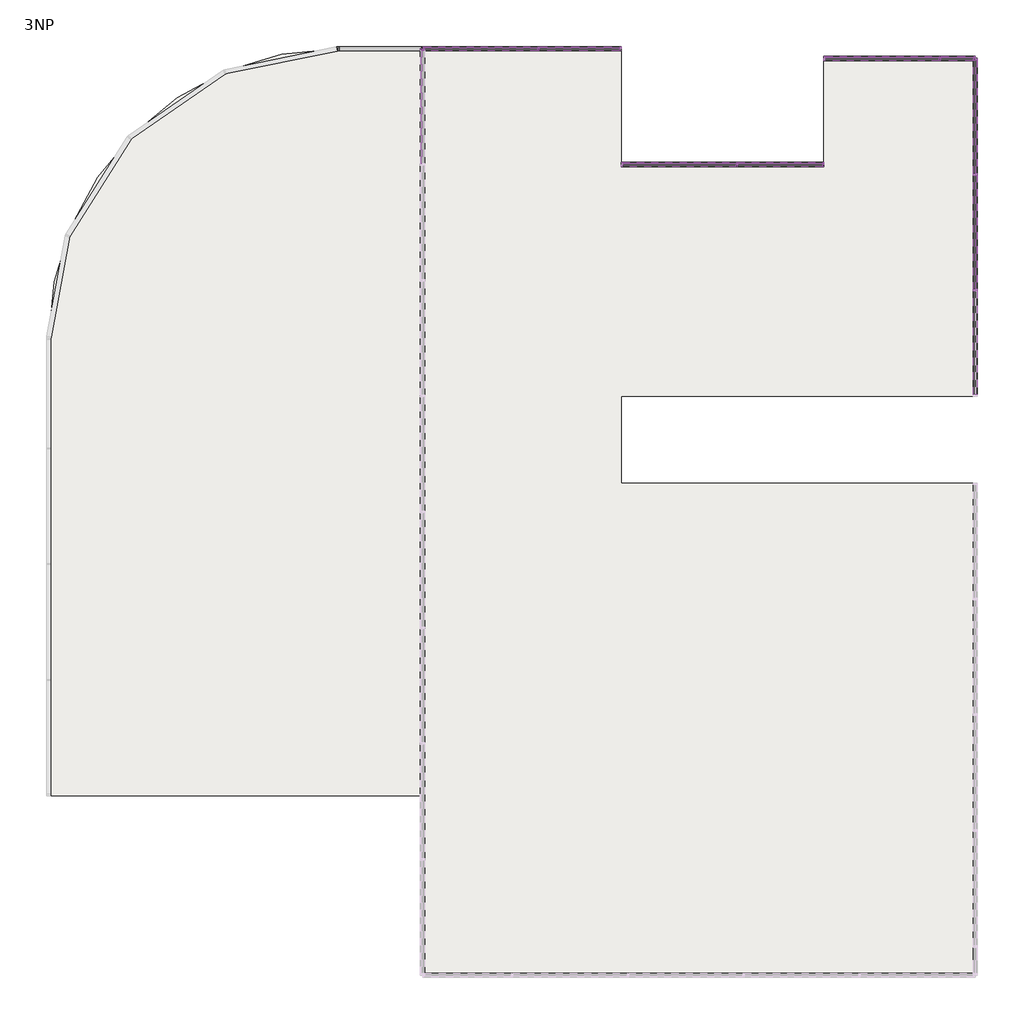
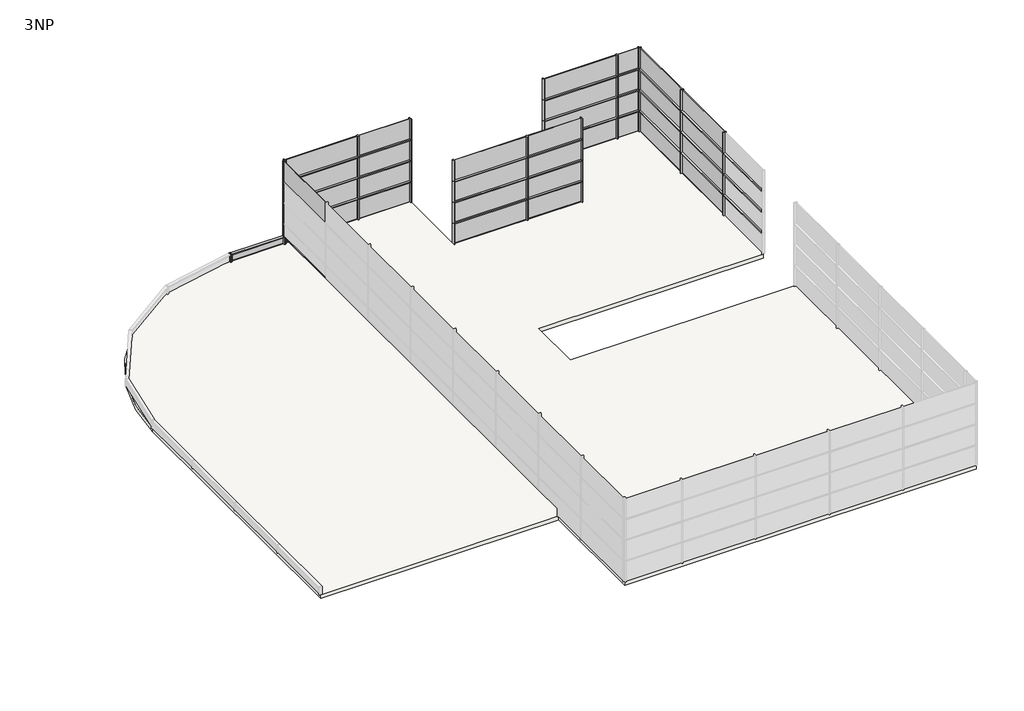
# One storey, part 3 of 3: 85 members, 34 plates, 1 slab.
"""IFC4 building model written with IfcOpenShell, lengths in millimetres."""

from ifc_helpers import new_model, si_unit, point, frame, frame_2d, origin, place, context, project, spatial, polyline, circle_curve, trimmed, segment, composite_curve, outline, extrude, transform, mapped, element, save
from components import rectangular_mullion_50_x_150mm_d99dc9be, rectangular_mullion_50_x_150mm_402ab136, rectangular_mullion_50_x_150mm_6588f46c, rectangular_mullion_50_x_150mm_3fe1b35e, rectangular_mullion_50_x_150mm_a037c29c, rectangular_mullion_50_x_150mm_c2546fd4, rectangular_mullion_50_x_150mm_70b588a3, rectangular_mullion_50_x_150mm_8b4cb4b7, rectangular_mullion_50_x_150mm_6c212b22, rectangular_mullion_50_x_150mm_185cfd49, rectangular_mullion_50_x_150mm_2fe63767, rectangular_mullion_50_x_150mm_0b116d56, system_panel_glazed_8e9402eb, system_panel_glazed_89ac83a7, system_panel_glazed_e890f31e, system_panel_glazed_bdf03046, system_panel_glazed_e3e91f99, system_panel_glazed_39d17f19, system_panel_glazed_f2c6a52c

model = new_model("IFC4")

# Units and contexts
model_context = context("Model", 3, world=origin())
ifc_project = project(units=[si_unit("LENGTHUNIT", "METRE", prefix="MILLI")], contexts=[model_context])

# Site, building, storey
site = spatial("IfcSite", under=ifc_project)
building = spatial("IfcBuilding", under=site)
storey = spatial("IfcBuildingStorey", under=building, Name="3NP", Elevation=12000.0)

# Members
placement = place(None, origin())
rectangular_mullion_50_x_150mm_shape = rectangular_mullion_50_x_150mm_d99dc9be(model_context)
element("IfcMember", 1, ObjectType="Rectangular Mullion : 50 x 150mm", at=placement, inside=storey, context=model_context, shape_type="MappedRepresentation", body=[
    mapped(rectangular_mullion_50_x_150mm_shape, transform((13503.2660975, 39.3555415, 16800.0), x_axis=(0.0, -1.0, 0.0), y_axis=(1.0, 0.0, 0.0), z_axis=(0.0, 0.0, 1.0))),
])
element("IfcMember", 2, ObjectType="Rectangular Mullion : 50 x 150mm", at=placement, inside=storey, context=model_context, shape_type="MappedRepresentation", body=[
    mapped(rectangular_mullion_50_x_150mm_shape, transform((13503.2660975, 39.3555415, 15600.0), x_axis=(0.0, -1.0, 0.0), y_axis=(1.0, 0.0, 0.0), z_axis=(0.0, 0.0, 1.0))),
])
element("IfcMember", 3, ObjectType="Rectangular Mullion : 50 x 150mm", at=placement, inside=storey, context=model_context, shape_type="MappedRepresentation", body=[
    mapped(rectangular_mullion_50_x_150mm_shape, transform((13503.2660975, 39.3555415, 14400.0), x_axis=(0.0, -1.0, 0.0), y_axis=(1.0, 0.0, 0.0), z_axis=(0.0, 0.0, 1.0))),
])
element("IfcMember", 4, ObjectType="Rectangular Mullion : 50 x 150mm", at=placement, inside=storey, context=model_context, shape_type="MappedRepresentation", body=[
    mapped(rectangular_mullion_50_x_150mm_shape, transform((13503.2660975, 39.3555415, 13200.0), x_axis=(0.0, -1.0, 0.0), y_axis=(1.0, 0.0, 0.0), z_axis=(0.0, 0.0, 1.0))),
])
element("IfcMember", 5, ObjectType="Rectangular Mullion : 50 x 150mm", at=placement, inside=storey, context=model_context, shape_type="MappedRepresentation", body=[
    mapped(rectangular_mullion_50_x_150mm_shape, transform((13503.2660975, 4039.3555415, 16800.0), x_axis=(0.0, -1.0, 0.0), y_axis=(1.0, 0.0, 0.0), z_axis=(0.0, 0.0, 1.0))),
])
element("IfcMember", 6, ObjectType="Rectangular Mullion : 50 x 150mm", at=placement, inside=storey, context=model_context, shape_type="MappedRepresentation", body=[
    mapped(rectangular_mullion_50_x_150mm_shape, transform((13503.2660975, 4039.3555415, 15600.0), x_axis=(0.0, -1.0, 0.0), y_axis=(1.0, 0.0, 0.0), z_axis=(0.0, 0.0, 1.0))),
])
element("IfcMember", 7, ObjectType="Rectangular Mullion : 50 x 150mm", at=placement, inside=storey, context=model_context, shape_type="MappedRepresentation", body=[
    mapped(rectangular_mullion_50_x_150mm_shape, transform((13503.2660975, 4039.3555415, 14400.0), x_axis=(0.0, -1.0, 0.0), y_axis=(1.0, 0.0, 0.0), z_axis=(0.0, 0.0, 1.0))),
])
element("IfcMember", 8, ObjectType="Rectangular Mullion : 50 x 150mm", at=placement, inside=storey, context=model_context, shape_type="MappedRepresentation", body=[
    mapped(rectangular_mullion_50_x_150mm_shape, transform((13503.2660975, 4039.3555415, 13200.0), x_axis=(0.0, -1.0, 0.0), y_axis=(1.0, 0.0, 0.0), z_axis=(0.0, 0.0, 1.0))),
])
element("IfcMember", 9, ObjectType="Rectangular Mullion : 50 x 150mm", at=placement, inside=storey, context=model_context, shape_type="MappedRepresentation", body=[
    mapped(rectangular_mullion_50_x_150mm_shape, transform((-1587.173406, 8375.9839566, 13200.0), x_axis=(1.0, 0.0, 0.0), y_axis=(0.0, 1.0, 0.0), z_axis=(0.0, 0.0, 1.0))),
])
element("IfcMember", 10, ObjectType="Rectangular Mullion : 50 x 150mm", at=placement, inside=storey, context=model_context, shape_type="MappedRepresentation", body=[
    mapped(rectangular_mullion_50_x_150mm_shape, transform((-1587.173406, 8375.9839566, 14400.0), x_axis=(1.0, 0.0, 0.0), y_axis=(0.0, 1.0, 0.0), z_axis=(0.0, 0.0, 1.0))),
])
element("IfcMember", 11, ObjectType="Rectangular Mullion : 50 x 150mm", at=placement, inside=storey, context=model_context, shape_type="MappedRepresentation", body=[
    mapped(rectangular_mullion_50_x_150mm_shape, transform((-1587.173406, 8375.9839566, 15600.0), x_axis=(1.0, 0.0, 0.0), y_axis=(0.0, 1.0, 0.0), z_axis=(0.0, 0.0, 1.0))),
])
element("IfcMember", 12, ObjectType="Rectangular Mullion : 50 x 150mm", at=placement, inside=storey, context=model_context, shape_type="MappedRepresentation", body=[
    mapped(rectangular_mullion_50_x_150mm_shape, transform((-1587.173406, 8375.9839566, 16800.0), x_axis=(1.0, 0.0, 0.0), y_axis=(0.0, 1.0, 0.0), z_axis=(0.0, 0.0, 1.0))),
])
element("IfcMember", 13, ObjectType="Rectangular Mullion : 50 x 150mm", at=placement, inside=storey, context=model_context, shape_type="MappedRepresentation", body=[
    mapped(rectangular_mullion_50_x_150mm_shape, transform((5278.419219, 4375.9839566, 16800.0), x_axis=(1.0, 0.0, 0.0), y_axis=(0.0, 1.0, 0.0), z_axis=(0.0, 0.0, 1.0))),
])
element("IfcMember", 14, ObjectType="Rectangular Mullion : 50 x 150mm", at=placement, inside=storey, context=model_context, shape_type="MappedRepresentation", body=[
    mapped(rectangular_mullion_50_x_150mm_shape, transform((5278.419219, 4375.9839566, 13200.0), x_axis=(1.0, 0.0, 0.0), y_axis=(0.0, 1.0, 0.0), z_axis=(0.0, 0.0, 1.0))),
])
element("IfcMember", 15, ObjectType="Rectangular Mullion : 50 x 150mm", at=placement, inside=storey, context=model_context, shape_type="MappedRepresentation", body=[
    mapped(rectangular_mullion_50_x_150mm_shape, transform((5278.419219, 4375.9839566, 14400.0), x_axis=(1.0, 0.0, 0.0), y_axis=(0.0, 1.0, 0.0), z_axis=(0.0, 0.0, 1.0))),
])
element("IfcMember", 16, ObjectType="Rectangular Mullion : 50 x 150mm", at=placement, inside=storey, context=model_context, shape_type="MappedRepresentation", body=[
    mapped(rectangular_mullion_50_x_150mm_shape, transform((5278.419219, 4375.9839566, 15600.0), x_axis=(1.0, 0.0, 0.0), y_axis=(0.0, 1.0, 0.0), z_axis=(0.0, 0.0, 1.0))),
])
element("IfcMember", 17, ObjectType="Rectangular Mullion : 50 x 150mm", at=placement, inside=storey, context=model_context, shape_type="MappedRepresentation", body=[
    mapped(rectangular_mullion_50_x_150mm_shape, transform((12278.419219, 8039.3555415, 13200.0), x_axis=(1.0, 0.0, 0.0), y_axis=(0.0, 1.0, 0.0), z_axis=(0.0, 0.0, 1.0))),
])
element("IfcMember", 18, ObjectType="Rectangular Mullion : 50 x 150mm", at=placement, inside=storey, context=model_context, shape_type="MappedRepresentation", body=[
    mapped(rectangular_mullion_50_x_150mm_shape, transform((12278.419219, 8039.3555415, 14400.0), x_axis=(1.0, 0.0, 0.0), y_axis=(0.0, 1.0, 0.0), z_axis=(0.0, 0.0, 1.0))),
])
element("IfcMember", 19, ObjectType="Rectangular Mullion : 50 x 150mm", at=placement, inside=storey, context=model_context, shape_type="MappedRepresentation", body=[
    mapped(rectangular_mullion_50_x_150mm_shape, transform((12278.419219, 8039.3555415, 15600.0), x_axis=(1.0, 0.0, 0.0), y_axis=(0.0, 1.0, 0.0), z_axis=(0.0, 0.0, 1.0))),
])
element("IfcMember", 20, ObjectType="Rectangular Mullion : 50 x 150mm", at=placement, inside=storey, context=model_context, shape_type="MappedRepresentation", body=[
    mapped(rectangular_mullion_50_x_150mm_shape, transform((12278.419219, 8039.3555415, 16800.0), x_axis=(1.0, 0.0, 0.0), y_axis=(0.0, 1.0, 0.0), z_axis=(0.0, 0.0, 1.0))),
])
rectangular_mullion_50_x_150mm_2_shape = rectangular_mullion_50_x_150mm_402ab136(model_context)
element("IfcMember", 21, ObjectType="Rectangular Mullion : 50 x 150mm", at=placement, inside=storey, context=model_context, shape_type="MappedRepresentation", body=[
    mapped(rectangular_mullion_50_x_150mm_2_shape, transform((-5587.173406, 8325.9839566, 12448.4924443), x_axis=(0.0, 0.0, -1.0), y_axis=(-1.0, 0.0, 0.0), z_axis=(0.0, 1.0, 0.0))),
])
rectangular_mullion_50_x_150mm_3_shape = rectangular_mullion_50_x_150mm_6588f46c(model_context)
element("IfcMember", 22, ObjectType="Rectangular Mullion : 50 x 150mm", at=placement, inside=storey, context=model_context, shape_type="MappedRepresentation", body=[
    mapped(rectangular_mullion_50_x_150mm_3_shape, transform((-5587.173406, 8375.9839566, 14400.0), x_axis=(0.0, 1.0, 0.0), y_axis=(-1.0, 0.0, 0.0), z_axis=(0.0, 0.0, 1.0))),
])
element("IfcMember", 23, ObjectType="Rectangular Mullion : 50 x 150mm", at=placement, inside=storey, context=model_context, shape_type="MappedRepresentation", body=[
    mapped(rectangular_mullion_50_x_150mm_3_shape, transform((-5587.173406, 8375.9839566, 15600.0), x_axis=(0.0, 1.0, 0.0), y_axis=(-1.0, 0.0, 0.0), z_axis=(0.0, 0.0, 1.0))),
])
element("IfcMember", 24, ObjectType="Rectangular Mullion : 50 x 150mm", at=placement, inside=storey, context=model_context, shape_type="MappedRepresentation", body=[
    mapped(rectangular_mullion_50_x_150mm_3_shape, transform((-5587.173406, 8375.9839566, 16800.0), x_axis=(0.0, 1.0, 0.0), y_axis=(-1.0, 0.0, 0.0), z_axis=(0.0, 0.0, 1.0))),
])
element("IfcMember", 25, ObjectType="Rectangular Mullion : 50 x 150mm", at=placement, inside=storey, context=model_context, shape_type="MappedRepresentation", body=[
    mapped(rectangular_mullion_50_x_150mm_3_shape, transform((1278.419219, 8375.9839566, 13200.0), x_axis=(1.0, 0.0, 0.0), y_axis=(0.0, 1.0, 0.0), z_axis=(0.0, 0.0, 1.0))),
])
element("IfcMember", 26, ObjectType="Rectangular Mullion : 50 x 150mm", at=placement, inside=storey, context=model_context, shape_type="MappedRepresentation", body=[
    mapped(rectangular_mullion_50_x_150mm_3_shape, transform((1278.419219, 8375.9839566, 14400.0), x_axis=(1.0, 0.0, 0.0), y_axis=(0.0, 1.0, 0.0), z_axis=(0.0, 0.0, 1.0))),
])
element("IfcMember", 27, ObjectType="Rectangular Mullion : 50 x 150mm", at=placement, inside=storey, context=model_context, shape_type="MappedRepresentation", body=[
    mapped(rectangular_mullion_50_x_150mm_3_shape, transform((1278.419219, 8375.9839566, 15600.0), x_axis=(1.0, 0.0, 0.0), y_axis=(0.0, 1.0, 0.0), z_axis=(0.0, 0.0, 1.0))),
])
element("IfcMember", 28, ObjectType="Rectangular Mullion : 50 x 150mm", at=placement, inside=storey, context=model_context, shape_type="MappedRepresentation", body=[
    mapped(rectangular_mullion_50_x_150mm_3_shape, transform((1278.419219, 8375.9839566, 16800.0), x_axis=(1.0, 0.0, 0.0), y_axis=(0.0, 1.0, 0.0), z_axis=(0.0, 0.0, 1.0))),
])
element("IfcMember", 29, ObjectType="Rectangular Mullion : 50 x 150mm", at=placement, inside=storey, context=model_context, shape_type="MappedRepresentation", body=[
    mapped(rectangular_mullion_50_x_150mm_3_shape, transform((8278.419219, 4375.9839566, 13200.0), x_axis=(1.0, 0.0, 0.0), y_axis=(0.0, 1.0, 0.0), z_axis=(0.0, 0.0, 1.0))),
])
element("IfcMember", 30, ObjectType="Rectangular Mullion : 50 x 150mm", at=placement, inside=storey, context=model_context, shape_type="MappedRepresentation", body=[
    mapped(rectangular_mullion_50_x_150mm_3_shape, transform((8278.419219, 4375.9839566, 14400.0), x_axis=(1.0, 0.0, 0.0), y_axis=(0.0, 1.0, 0.0), z_axis=(0.0, 0.0, 1.0))),
])
element("IfcMember", 31, ObjectType="Rectangular Mullion : 50 x 150mm", at=placement, inside=storey, context=model_context, shape_type="MappedRepresentation", body=[
    mapped(rectangular_mullion_50_x_150mm_3_shape, transform((8278.419219, 4375.9839566, 15600.0), x_axis=(1.0, 0.0, 0.0), y_axis=(0.0, 1.0, 0.0), z_axis=(0.0, 0.0, 1.0))),
])
element("IfcMember", 32, ObjectType="Rectangular Mullion : 50 x 150mm", at=placement, inside=storey, context=model_context, shape_type="MappedRepresentation", body=[
    mapped(rectangular_mullion_50_x_150mm_3_shape, transform((8278.419219, 4375.9839566, 16800.0), x_axis=(1.0, 0.0, 0.0), y_axis=(0.0, 1.0, 0.0), z_axis=(0.0, 0.0, 1.0))),
])
element("IfcMember", 33, ObjectType="Rectangular Mullion : 50 x 150mm", at=placement, inside=storey, context=model_context, shape_type="MappedRepresentation", body=[
    mapped(rectangular_mullion_50_x_150mm_3_shape, transform((13503.2660975, 8039.3555415, 13200.0), x_axis=(1.0, 0.0, 0.0), y_axis=(0.0, 1.0, 0.0), z_axis=(0.0, 0.0, 1.0))),
])
element("IfcMember", 34, ObjectType="Rectangular Mullion : 50 x 150mm", at=placement, inside=storey, context=model_context, shape_type="MappedRepresentation", body=[
    mapped(rectangular_mullion_50_x_150mm_3_shape, transform((13503.2660975, 8039.3555415, 14400.0), x_axis=(1.0, 0.0, 0.0), y_axis=(0.0, 1.0, 0.0), z_axis=(0.0, 0.0, 1.0))),
])
element("IfcMember", 35, ObjectType="Rectangular Mullion : 50 x 150mm", at=placement, inside=storey, context=model_context, shape_type="MappedRepresentation", body=[
    mapped(rectangular_mullion_50_x_150mm_3_shape, transform((13503.2660975, 8039.3555415, 15600.0), x_axis=(1.0, 0.0, 0.0), y_axis=(0.0, 1.0, 0.0), z_axis=(0.0, 0.0, 1.0))),
])
element("IfcMember", 36, ObjectType="Rectangular Mullion : 50 x 150mm", at=placement, inside=storey, context=model_context, shape_type="MappedRepresentation", body=[
    mapped(rectangular_mullion_50_x_150mm_3_shape, transform((13503.2660975, 8039.3555415, 16800.0), x_axis=(1.0, 0.0, 0.0), y_axis=(0.0, 1.0, 0.0), z_axis=(0.0, 0.0, 1.0))),
])
rectangular_mullion_50_x_150mm_4_shape = rectangular_mullion_50_x_150mm_3fe1b35e(model_context)
element("IfcMember", 37, ObjectType="Rectangular Mullion : 50 x 150mm", at=placement, inside=storey, context=model_context, shape_type="MappedRepresentation", body=[
    mapped(rectangular_mullion_50_x_150mm_4_shape, transform((13503.2660975, 14.3555415, 15600.0), x_axis=(0.0, 0.0, 1.0), y_axis=(1.0, 0.0, 0.0), z_axis=(0.0, 1.0, 0.0))),
])
element("IfcMember", 38, ObjectType="Rectangular Mullion : 50 x 150mm", at=placement, inside=storey, context=model_context, shape_type="MappedRepresentation", body=[
    mapped(rectangular_mullion_50_x_150mm_4_shape, transform((13503.2660975, 14.3555415, 14400.0), x_axis=(0.0, 0.0, 1.0), y_axis=(1.0, 0.0, 0.0), z_axis=(0.0, 1.0, 0.0))),
])
element("IfcMember", 39, ObjectType="Rectangular Mullion : 50 x 150mm", at=placement, inside=storey, context=model_context, shape_type="MappedRepresentation", body=[
    mapped(rectangular_mullion_50_x_150mm_4_shape, transform((13503.2660975, 14.3555415, 13200.0), x_axis=(0.0, 0.0, 1.0), y_axis=(1.0, 0.0, 0.0), z_axis=(0.0, 1.0, 0.0))),
])
rectangular_mullion_50_x_150mm_5_shape = rectangular_mullion_50_x_150mm_a037c29c(model_context)
element("IfcMember", 40, ObjectType="Rectangular Mullion : 50 x 150mm", at=placement, inside=storey, context=model_context, shape_type="MappedRepresentation", body=[
    mapped(rectangular_mullion_50_x_150mm_5_shape, transform((13503.2660975, 4014.3555415, 15600.0), x_axis=(0.0, 0.0, 1.0), y_axis=(1.0, 0.0, 0.0), z_axis=(0.0, 1.0, 0.0))),
])
element("IfcMember", 41, ObjectType="Rectangular Mullion : 50 x 150mm", at=placement, inside=storey, context=model_context, shape_type="MappedRepresentation", body=[
    mapped(rectangular_mullion_50_x_150mm_5_shape, transform((13503.2660975, 4014.3555415, 14400.0), x_axis=(0.0, 0.0, 1.0), y_axis=(1.0, 0.0, 0.0), z_axis=(0.0, 1.0, 0.0))),
])
element("IfcMember", 42, ObjectType="Rectangular Mullion : 50 x 150mm", at=placement, inside=storey, context=model_context, shape_type="MappedRepresentation", body=[
    mapped(rectangular_mullion_50_x_150mm_5_shape, transform((13503.2660975, 4014.3555415, 13200.0), x_axis=(0.0, 0.0, 1.0), y_axis=(1.0, 0.0, 0.0), z_axis=(0.0, 1.0, 0.0))),
])
rectangular_mullion_50_x_150mm_6_shape = rectangular_mullion_50_x_150mm_c2546fd4(model_context)
element("IfcMember", 43, ObjectType="Rectangular Mullion : 50 x 150mm", at=placement, inside=storey, context=model_context, shape_type="MappedRepresentation", body=[
    mapped(rectangular_mullion_50_x_150mm_6_shape, transform((13503.2660975, 7989.3555415, 15600.0), x_axis=(0.0, 0.0, 1.0), y_axis=(1.0, 0.0, 0.0), z_axis=(0.0, 1.0, 0.0))),
])
element("IfcMember", 44, ObjectType="Rectangular Mullion : 50 x 150mm", at=placement, inside=storey, context=model_context, shape_type="MappedRepresentation", body=[
    mapped(rectangular_mullion_50_x_150mm_6_shape, transform((13503.2660975, 7989.3555415, 14400.0), x_axis=(0.0, 0.0, 1.0), y_axis=(1.0, 0.0, 0.0), z_axis=(0.0, 1.0, 0.0))),
])
element("IfcMember", 45, ObjectType="Rectangular Mullion : 50 x 150mm", at=placement, inside=storey, context=model_context, shape_type="MappedRepresentation", body=[
    mapped(rectangular_mullion_50_x_150mm_6_shape, transform((13503.2660975, 7989.3555415, 13200.0), x_axis=(0.0, 0.0, 1.0), y_axis=(1.0, 0.0, 0.0), z_axis=(0.0, 1.0, 0.0))),
])
element("IfcMember", 46, ObjectType="Rectangular Mullion : 50 x 150mm", at=placement, inside=storey, context=model_context, shape_type="MappedRepresentation", body=[
    mapped(rectangular_mullion_50_x_150mm_6_shape, transform((-5537.173406, 8375.9839566, 13200.0), x_axis=(0.0, 0.0, 1.0), y_axis=(0.0, 1.0, 0.0), z_axis=(-1.0, 0.0, 0.0))),
])
element("IfcMember", 47, ObjectType="Rectangular Mullion : 50 x 150mm", at=placement, inside=storey, context=model_context, shape_type="MappedRepresentation", body=[
    mapped(rectangular_mullion_50_x_150mm_6_shape, transform((-5537.173406, 8375.9839566, 14400.0), x_axis=(0.0, 0.0, 1.0), y_axis=(0.0, 1.0, 0.0), z_axis=(-1.0, 0.0, 0.0))),
])
element("IfcMember", 48, ObjectType="Rectangular Mullion : 50 x 150mm", at=placement, inside=storey, context=model_context, shape_type="MappedRepresentation", body=[
    mapped(rectangular_mullion_50_x_150mm_6_shape, transform((-5537.173406, 8375.9839566, 15600.0), x_axis=(0.0, 0.0, 1.0), y_axis=(0.0, 1.0, 0.0), z_axis=(-1.0, 0.0, 0.0))),
])
element("IfcMember", 49, ObjectType="Rectangular Mullion : 50 x 150mm", at=placement, inside=storey, context=model_context, shape_type="MappedRepresentation", body=[
    mapped(rectangular_mullion_50_x_150mm_6_shape, transform((1328.419219, 4375.9839566, 13200.0), x_axis=(0.0, 0.0, 1.0), y_axis=(0.0, 1.0, 0.0), z_axis=(-1.0, 0.0, 0.0))),
])
element("IfcMember", 50, ObjectType="Rectangular Mullion : 50 x 150mm", at=placement, inside=storey, context=model_context, shape_type="MappedRepresentation", body=[
    mapped(rectangular_mullion_50_x_150mm_6_shape, transform((1328.419219, 4375.9839566, 14400.0), x_axis=(0.0, 0.0, 1.0), y_axis=(0.0, 1.0, 0.0), z_axis=(-1.0, 0.0, 0.0))),
])
element("IfcMember", 51, ObjectType="Rectangular Mullion : 50 x 150mm", at=placement, inside=storey, context=model_context, shape_type="MappedRepresentation", body=[
    mapped(rectangular_mullion_50_x_150mm_6_shape, transform((1328.419219, 4375.9839566, 15600.0), x_axis=(0.0, 0.0, 1.0), y_axis=(0.0, 1.0, 0.0), z_axis=(-1.0, 0.0, 0.0))),
])
element("IfcMember", 52, ObjectType="Rectangular Mullion : 50 x 150mm", at=placement, inside=storey, context=model_context, shape_type="MappedRepresentation", body=[
    mapped(rectangular_mullion_50_x_150mm_6_shape, transform((8328.419219, 8039.3555415, 13200.0), x_axis=(0.0, 0.0, 1.0), y_axis=(0.0, 1.0, 0.0), z_axis=(-1.0, 0.0, 0.0))),
])
element("IfcMember", 53, ObjectType="Rectangular Mullion : 50 x 150mm", at=placement, inside=storey, context=model_context, shape_type="MappedRepresentation", body=[
    mapped(rectangular_mullion_50_x_150mm_6_shape, transform((8328.419219, 8039.3555415, 14400.0), x_axis=(0.0, 0.0, 1.0), y_axis=(0.0, 1.0, 0.0), z_axis=(-1.0, 0.0, 0.0))),
])
element("IfcMember", 54, ObjectType="Rectangular Mullion : 50 x 150mm", at=placement, inside=storey, context=model_context, shape_type="MappedRepresentation", body=[
    mapped(rectangular_mullion_50_x_150mm_6_shape, transform((8328.419219, 8039.3555415, 15600.0), x_axis=(0.0, 0.0, 1.0), y_axis=(0.0, 1.0, 0.0), z_axis=(-1.0, 0.0, 0.0))),
])
element("IfcMember", 55, ObjectType="Rectangular Mullion : 50 x 150mm", at=placement, inside=storey, context=model_context, shape_type="MappedRepresentation", body=[
    mapped(rectangular_mullion_50_x_150mm_3_shape, transform((13503.2660975, 8039.3555415, 15600.0), x_axis=(0.0, 1.0, 0.0), y_axis=(1.0, 0.0, 0.0), z_axis=(0.0, 0.0, -1.0))),
])
element("IfcMember", 56, ObjectType="Rectangular Mullion : 50 x 150mm", at=placement, inside=storey, context=model_context, shape_type="MappedRepresentation", body=[
    mapped(rectangular_mullion_50_x_150mm_3_shape, transform((13503.2660975, 8039.3555415, 14400.0), x_axis=(0.0, 1.0, 0.0), y_axis=(1.0, 0.0, 0.0), z_axis=(0.0, 0.0, -1.0))),
])
element("IfcMember", 57, ObjectType="Rectangular Mullion : 50 x 150mm", at=placement, inside=storey, context=model_context, shape_type="MappedRepresentation", body=[
    mapped(rectangular_mullion_50_x_150mm_3_shape, transform((13503.2660975, 8039.3555415, 13200.0), x_axis=(0.0, 1.0, 0.0), y_axis=(1.0, 0.0, 0.0), z_axis=(0.0, 0.0, -1.0))),
])
element("IfcMember", 58, ObjectType="Rectangular Mullion : 50 x 150mm", at=placement, inside=storey, context=model_context, shape_type="MappedRepresentation", body=[
    mapped(rectangular_mullion_50_x_150mm_3_shape, transform((13503.2660975, 8039.3555415, 12000.0), x_axis=(0.0, 1.0, 0.0), y_axis=(1.0, 0.0, 0.0), z_axis=(0.0, 0.0, -1.0))),
])
element("IfcMember", 59, ObjectType="Rectangular Mullion : 50 x 150mm", at=placement, inside=storey, context=model_context, shape_type="MappedRepresentation", body=[
    mapped(rectangular_mullion_50_x_150mm_3_shape, transform((-5587.173406, 8375.9839566, 13200.0), x_axis=(-1.0, 0.0, 0.0), y_axis=(0.0, 1.0, 0.0), z_axis=(0.0, 0.0, -1.0))),
])
element("IfcMember", 60, ObjectType="Rectangular Mullion : 50 x 150mm", at=placement, inside=storey, context=model_context, shape_type="MappedRepresentation", body=[
    mapped(rectangular_mullion_50_x_150mm_3_shape, transform((-5587.173406, 8375.9839566, 14400.0), x_axis=(-1.0, 0.0, 0.0), y_axis=(0.0, 1.0, 0.0), z_axis=(0.0, 0.0, -1.0))),
])
element("IfcMember", 61, ObjectType="Rectangular Mullion : 50 x 150mm", at=placement, inside=storey, context=model_context, shape_type="MappedRepresentation", body=[
    mapped(rectangular_mullion_50_x_150mm_3_shape, transform((-5587.173406, 8375.9839566, 15600.0), x_axis=(-1.0, 0.0, 0.0), y_axis=(0.0, 1.0, 0.0), z_axis=(0.0, 0.0, -1.0))),
])
element("IfcMember", 62, ObjectType="Rectangular Mullion : 50 x 150mm", at=placement, inside=storey, context=model_context, shape_type="MappedRepresentation", body=[
    mapped(rectangular_mullion_50_x_150mm_3_shape, transform((1278.419219, 4375.9839566, 12000.0), x_axis=(-1.0, 0.0, 0.0), y_axis=(0.0, 1.0, 0.0), z_axis=(0.0, 0.0, -1.0))),
])
element("IfcMember", 63, ObjectType="Rectangular Mullion : 50 x 150mm", at=placement, inside=storey, context=model_context, shape_type="MappedRepresentation", body=[
    mapped(rectangular_mullion_50_x_150mm_3_shape, transform((1278.419219, 4375.9839566, 13200.0), x_axis=(-1.0, 0.0, 0.0), y_axis=(0.0, 1.0, 0.0), z_axis=(0.0, 0.0, -1.0))),
])
element("IfcMember", 64, ObjectType="Rectangular Mullion : 50 x 150mm", at=placement, inside=storey, context=model_context, shape_type="MappedRepresentation", body=[
    mapped(rectangular_mullion_50_x_150mm_3_shape, transform((1278.419219, 4375.9839566, 14400.0), x_axis=(-1.0, 0.0, 0.0), y_axis=(0.0, 1.0, 0.0), z_axis=(0.0, 0.0, -1.0))),
])
element("IfcMember", 65, ObjectType="Rectangular Mullion : 50 x 150mm", at=placement, inside=storey, context=model_context, shape_type="MappedRepresentation", body=[
    mapped(rectangular_mullion_50_x_150mm_3_shape, transform((1278.419219, 4375.9839566, 15600.0), x_axis=(-1.0, 0.0, 0.0), y_axis=(0.0, 1.0, 0.0), z_axis=(0.0, 0.0, -1.0))),
])
element("IfcMember", 66, ObjectType="Rectangular Mullion : 50 x 150mm", at=placement, inside=storey, context=model_context, shape_type="MappedRepresentation", body=[
    mapped(rectangular_mullion_50_x_150mm_3_shape, transform((8278.419219, 8039.3555415, 12000.0), x_axis=(-1.0, 0.0, 0.0), y_axis=(0.0, 1.0, 0.0), z_axis=(0.0, 0.0, -1.0))),
])
element("IfcMember", 67, ObjectType="Rectangular Mullion : 50 x 150mm", at=placement, inside=storey, context=model_context, shape_type="MappedRepresentation", body=[
    mapped(rectangular_mullion_50_x_150mm_3_shape, transform((8278.419219, 8039.3555415, 13200.0), x_axis=(-1.0, 0.0, 0.0), y_axis=(0.0, 1.0, 0.0), z_axis=(0.0, 0.0, -1.0))),
])
element("IfcMember", 68, ObjectType="Rectangular Mullion : 50 x 150mm", at=placement, inside=storey, context=model_context, shape_type="MappedRepresentation", body=[
    mapped(rectangular_mullion_50_x_150mm_3_shape, transform((8278.419219, 8039.3555415, 14400.0), x_axis=(-1.0, 0.0, 0.0), y_axis=(0.0, 1.0, 0.0), z_axis=(0.0, 0.0, -1.0))),
])
element("IfcMember", 69, ObjectType="Rectangular Mullion : 50 x 150mm", at=placement, inside=storey, context=model_context, shape_type="MappedRepresentation", body=[
    mapped(rectangular_mullion_50_x_150mm_3_shape, transform((8278.419219, 8039.3555415, 15600.0), x_axis=(-1.0, 0.0, 0.0), y_axis=(0.0, 1.0, 0.0), z_axis=(0.0, 0.0, -1.0))),
])
rectangular_mullion_50_x_150mm_7_shape = rectangular_mullion_50_x_150mm_70b588a3(model_context)
element("IfcMember", 70, ObjectType="Rectangular Mullion : 50 x 150mm", at=placement, inside=storey, context=model_context, shape_type="MappedRepresentation", body=[
    mapped(rectangular_mullion_50_x_150mm_7_shape, transform((-5587.173406, 8375.9839566, 13200.0), x_axis=(0.0, 1.0, 0.0), y_axis=(-1.0, 0.0, 0.0), z_axis=(0.0, 0.0, 1.0))),
])
rectangular_mullion_50_x_150mm_8_shape = rectangular_mullion_50_x_150mm_8b4cb4b7(model_context)
element("IfcMember", 71, ObjectType="Rectangular Mullion : 50 x 150mm", at=placement, inside=storey, context=model_context, shape_type="MappedRepresentation", body=[
    mapped(rectangular_mullion_50_x_150mm_8_shape, transform((-1562.173406, 8375.9839566, 13200.0), x_axis=(0.0, 0.0, 1.0), y_axis=(0.0, 1.0, 0.0), z_axis=(-1.0, 0.0, 0.0))),
])
element("IfcMember", 72, ObjectType="Rectangular Mullion : 50 x 150mm", at=placement, inside=storey, context=model_context, shape_type="MappedRepresentation", body=[
    mapped(rectangular_mullion_50_x_150mm_8_shape, transform((-1562.173406, 8375.9839566, 14400.0), x_axis=(0.0, 0.0, 1.0), y_axis=(0.0, 1.0, 0.0), z_axis=(-1.0, 0.0, 0.0))),
])
element("IfcMember", 73, ObjectType="Rectangular Mullion : 50 x 150mm", at=placement, inside=storey, context=model_context, shape_type="MappedRepresentation", body=[
    mapped(rectangular_mullion_50_x_150mm_8_shape, transform((-1562.173406, 8375.9839566, 15600.0), x_axis=(0.0, 0.0, 1.0), y_axis=(0.0, 1.0, 0.0), z_axis=(-1.0, 0.0, 0.0))),
])
rectangular_mullion_50_x_150mm_9_shape = rectangular_mullion_50_x_150mm_6c212b22(model_context)
element("IfcMember", 74, ObjectType="Rectangular Mullion : 50 x 150mm", at=placement, inside=storey, context=model_context, shape_type="MappedRepresentation", body=[
    mapped(rectangular_mullion_50_x_150mm_9_shape, transform((-5587.173406, 8375.9839566, 12000.0), x_axis=(-1.0, 0.0, 0.0), y_axis=(0.0, 1.0, 0.0), z_axis=(0.0, 0.0, -1.0))),
])
element("IfcMember", 75, ObjectType="Rectangular Mullion : 50 x 150mm", at=placement, inside=storey, context=model_context, shape_type="MappedRepresentation", body=[
    mapped(rectangular_mullion_50_x_150mm_7_shape, transform((-5587.173406, 8375.9839566, 12448.4924443), x_axis=(-1.0, 0.0, 0.0), y_axis=(0.0, 1.0, 0.0), z_axis=(0.0, 0.0, -1.0))),
])
rectangular_mullion_50_x_150mm_10_shape = rectangular_mullion_50_x_150mm_185cfd49(model_context)
element("IfcMember", 76, ObjectType="Rectangular Mullion : 50 x 150mm", at=placement, inside=storey, context=model_context, shape_type="MappedRepresentation", body=[
    mapped(rectangular_mullion_50_x_150mm_10_shape, transform((5303.419219, 4375.9839566, 13200.0), x_axis=(0.0, 0.0, 1.0), y_axis=(0.0, 1.0, 0.0), z_axis=(-1.0, 0.0, 0.0))),
])
element("IfcMember", 77, ObjectType="Rectangular Mullion : 50 x 150mm", at=placement, inside=storey, context=model_context, shape_type="MappedRepresentation", body=[
    mapped(rectangular_mullion_50_x_150mm_10_shape, transform((5303.419219, 4375.9839566, 14400.0), x_axis=(0.0, 0.0, 1.0), y_axis=(0.0, 1.0, 0.0), z_axis=(-1.0, 0.0, 0.0))),
])
element("IfcMember", 78, ObjectType="Rectangular Mullion : 50 x 150mm", at=placement, inside=storey, context=model_context, shape_type="MappedRepresentation", body=[
    mapped(rectangular_mullion_50_x_150mm_10_shape, transform((5303.419219, 4375.9839566, 15600.0), x_axis=(0.0, 0.0, 1.0), y_axis=(0.0, 1.0, 0.0), z_axis=(-1.0, 0.0, 0.0))),
])
rectangular_mullion_50_x_150mm_11_shape = rectangular_mullion_50_x_150mm_2fe63767(model_context)
element("IfcMember", 79, ObjectType="Rectangular Mullion : 50 x 150mm", at=placement, inside=storey, context=model_context, shape_type="MappedRepresentation", body=[
    mapped(rectangular_mullion_50_x_150mm_11_shape, transform((12303.419219, 8039.3555415, 13200.0), x_axis=(0.0, 0.0, 1.0), y_axis=(0.0, 1.0, 0.0), z_axis=(-1.0, 0.0, 0.0))),
])
element("IfcMember", 80, ObjectType="Rectangular Mullion : 50 x 150mm", at=placement, inside=storey, context=model_context, shape_type="MappedRepresentation", body=[
    mapped(rectangular_mullion_50_x_150mm_11_shape, transform((12303.419219, 8039.3555415, 14400.0), x_axis=(0.0, 0.0, 1.0), y_axis=(0.0, 1.0, 0.0), z_axis=(-1.0, 0.0, 0.0))),
])
element("IfcMember", 81, ObjectType="Rectangular Mullion : 50 x 150mm", at=placement, inside=storey, context=model_context, shape_type="MappedRepresentation", body=[
    mapped(rectangular_mullion_50_x_150mm_11_shape, transform((12303.419219, 8039.3555415, 15600.0), x_axis=(0.0, 0.0, 1.0), y_axis=(0.0, 1.0, 0.0), z_axis=(-1.0, 0.0, 0.0))),
])
rectangular_mullion_50_x_150mm_12_shape = rectangular_mullion_50_x_150mm_0b116d56(model_context)
element("IfcMember", 82, ObjectType="Rectangular Mullion : 50 x 150mm", at=placement, inside=storey, context=model_context, shape_type="MappedRepresentation", body=[
    mapped(rectangular_mullion_50_x_150mm_12_shape, transform((-8446.7339025, 8375.9839566, 12448.4924443), x_axis=(0.0, 0.0, 1.0), y_axis=(0.0, 1.0, 0.0), z_axis=(-1.0, 0.0, 0.0))),
])
element("IfcMember", 83, ObjectType="Rectangular Mullion : 50 x 150mm", at=placement, inside=storey, context=model_context, shape_type="MappedRepresentation", body=[
    mapped(rectangular_mullion_50_x_150mm_9_shape, transform((-5587.173406, 8375.9839566, 12448.4924443), x_axis=(1.0, 0.0, 0.0), y_axis=(0.0, 1.0, 0.0), z_axis=(0.0, 0.0, 1.0))),
])
element("IfcMember", 84, ObjectType="Rectangular Mullion : 50 x 150mm", at=placement, inside=storey, context=model_context, shape_type="MappedRepresentation", body=[
    mapped(rectangular_mullion_50_x_150mm_9_shape, transform((-8496.7339025, 8375.9839566, 12448.4924443), x_axis=(0.9797958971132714, 0.19999999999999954, 0.0), y_axis=(-0.19999999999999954, 0.9797958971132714, 0.0), z_axis=(0.0, 0.0, 1.0))),
])
element("IfcMember", 85, ObjectType="Rectangular Mullion : 50 x 150mm", at=placement, inside=storey, context=model_context, shape_type="MappedRepresentation", body=[
    mapped(rectangular_mullion_50_x_150mm_9_shape, transform((-8496.7339025, 8375.9839566, 12000.0), x_axis=(-1.0, 0.0, 0.0), y_axis=(0.0, 1.0, 0.0), z_axis=(0.0, 0.0, -1.0))),
])

# Plates
system_panel_glazed_shape = system_panel_glazed_8e9402eb(model_context)
element("IfcPlate", 86, ObjectType="System Panel : Glazed", at=placement, inside=storey, context=model_context, shape_type="MappedRepresentation", body=[
    mapped(system_panel_glazed_shape, transform((-5587.173406, 6363.4839566, 15625.0), x_axis=(0.0, 1.0, 0.0), y_axis=(-1.0, 0.0, 0.0), z_axis=(0.0, 0.0, 1.0))),
])
element("IfcPlate", 87, ObjectType="System Panel : Glazed", at=placement, inside=storey, context=model_context, shape_type="MappedRepresentation", body=[
    mapped(system_panel_glazed_shape, transform((13503.2660975, 6026.8555415, 12025.0), x_axis=(0.0, -1.0, 0.0), y_axis=(1.0, 0.0, 0.0), z_axis=(0.0, 0.0, 1.0))),
])
element("IfcPlate", 88, ObjectType="System Panel : Glazed", at=placement, inside=storey, context=model_context, shape_type="MappedRepresentation", body=[
    mapped(system_panel_glazed_shape, transform((13503.2660975, 6026.8555415, 13225.0), x_axis=(0.0, -1.0, 0.0), y_axis=(1.0, 0.0, 0.0), z_axis=(0.0, 0.0, 1.0))),
])
element("IfcPlate", 89, ObjectType="System Panel : Glazed", at=placement, inside=storey, context=model_context, shape_type="MappedRepresentation", body=[
    mapped(system_panel_glazed_shape, transform((13503.2660975, 6026.8555415, 14425.0), x_axis=(0.0, -1.0, 0.0), y_axis=(1.0, 0.0, 0.0), z_axis=(0.0, 0.0, 1.0))),
])
element("IfcPlate", 90, ObjectType="System Panel : Glazed", at=placement, inside=storey, context=model_context, shape_type="MappedRepresentation", body=[
    mapped(system_panel_glazed_shape, transform((13503.2660975, 6026.8555415, 15625.0), x_axis=(0.0, -1.0, 0.0), y_axis=(1.0, 0.0, 0.0), z_axis=(0.0, 0.0, 1.0))),
])
element("IfcPlate", 91, ObjectType="System Panel : Glazed", at=placement, inside=storey, context=model_context, shape_type="MappedRepresentation", body=[
    mapped(system_panel_glazed_shape, transform((10290.919219, 8039.3555415, 12025.0), x_axis=(1.0, 0.0, 0.0), y_axis=(0.0, 1.0, 0.0), z_axis=(0.0, 0.0, 1.0))),
])
element("IfcPlate", 92, ObjectType="System Panel : Glazed", at=placement, inside=storey, context=model_context, shape_type="MappedRepresentation", body=[
    mapped(system_panel_glazed_shape, transform((10290.919219, 8039.3555415, 13225.0), x_axis=(1.0, 0.0, 0.0), y_axis=(0.0, 1.0, 0.0), z_axis=(0.0, 0.0, 1.0))),
])
element("IfcPlate", 93, ObjectType="System Panel : Glazed", at=placement, inside=storey, context=model_context, shape_type="MappedRepresentation", body=[
    mapped(system_panel_glazed_shape, transform((10290.919219, 8039.3555415, 14425.0), x_axis=(1.0, 0.0, 0.0), y_axis=(0.0, 1.0, 0.0), z_axis=(0.0, 0.0, 1.0))),
])
element("IfcPlate", 94, ObjectType="System Panel : Glazed", at=placement, inside=storey, context=model_context, shape_type="MappedRepresentation", body=[
    mapped(system_panel_glazed_shape, transform((10290.919219, 8039.3555415, 15625.0), x_axis=(1.0, 0.0, 0.0), y_axis=(0.0, 1.0, 0.0), z_axis=(0.0, 0.0, 1.0))),
])
element("IfcPlate", 95, ObjectType="System Panel : Glazed", at=placement, inside=storey, context=model_context, shape_type="MappedRepresentation", body=[
    mapped(system_panel_glazed_shape, transform((3290.919219, 4375.9839566, 12025.0), x_axis=(1.0, 0.0, 0.0), y_axis=(0.0, 1.0, 0.0), z_axis=(0.0, 0.0, 1.0))),
])
element("IfcPlate", 96, ObjectType="System Panel : Glazed", at=placement, inside=storey, context=model_context, shape_type="MappedRepresentation", body=[
    mapped(system_panel_glazed_shape, transform((3290.919219, 4375.9839566, 13225.0), x_axis=(1.0, 0.0, 0.0), y_axis=(0.0, 1.0, 0.0), z_axis=(0.0, 0.0, 1.0))),
])
element("IfcPlate", 97, ObjectType="System Panel : Glazed", at=placement, inside=storey, context=model_context, shape_type="MappedRepresentation", body=[
    mapped(system_panel_glazed_shape, transform((3290.919219, 4375.9839566, 14425.0), x_axis=(1.0, 0.0, 0.0), y_axis=(0.0, 1.0, 0.0), z_axis=(0.0, 0.0, 1.0))),
])
element("IfcPlate", 98, ObjectType="System Panel : Glazed", at=placement, inside=storey, context=model_context, shape_type="MappedRepresentation", body=[
    mapped(system_panel_glazed_shape, transform((3290.919219, 4375.9839566, 15625.0), x_axis=(1.0, 0.0, 0.0), y_axis=(0.0, 1.0, 0.0), z_axis=(0.0, 0.0, 1.0))),
])
element("IfcPlate", 99, ObjectType="System Panel : Glazed", at=placement, inside=storey, context=model_context, shape_type="MappedRepresentation", body=[
    mapped(system_panel_glazed_shape, transform((-3574.673406, 8375.9839566, 13225.0), x_axis=(1.0, 0.0, 0.0), y_axis=(0.0, 1.0, 0.0), z_axis=(0.0, 0.0, 1.0))),
])
element("IfcPlate", 100, ObjectType="System Panel : Glazed", at=placement, inside=storey, context=model_context, shape_type="MappedRepresentation", body=[
    mapped(system_panel_glazed_shape, transform((-3574.673406, 8375.9839566, 14425.0), x_axis=(1.0, 0.0, 0.0), y_axis=(0.0, 1.0, 0.0), z_axis=(0.0, 0.0, 1.0))),
])
element("IfcPlate", 101, ObjectType="System Panel : Glazed", at=placement, inside=storey, context=model_context, shape_type="MappedRepresentation", body=[
    mapped(system_panel_glazed_shape, transform((-3574.673406, 8375.9839566, 15625.0), x_axis=(1.0, 0.0, 0.0), y_axis=(0.0, 1.0, 0.0), z_axis=(0.0, 0.0, 1.0))),
])
system_panel_glazed_2_shape = system_panel_glazed_89ac83a7(model_context)
element("IfcPlate", 102, ObjectType="System Panel : Glazed", at=placement, inside=storey, context=model_context, shape_type="MappedRepresentation", body=[
    mapped(system_panel_glazed_2_shape, transform((13503.2660975, 2039.3555415, 12025.0), x_axis=(0.0, -1.0, 0.0), y_axis=(1.0, 0.0, 0.0), z_axis=(0.0, 0.0, 1.0))),
])
element("IfcPlate", 103, ObjectType="System Panel : Glazed", at=placement, inside=storey, context=model_context, shape_type="MappedRepresentation", body=[
    mapped(system_panel_glazed_2_shape, transform((13503.2660975, 2039.3555415, 13225.0), x_axis=(0.0, -1.0, 0.0), y_axis=(1.0, 0.0, 0.0), z_axis=(0.0, 0.0, 1.0))),
])
element("IfcPlate", 104, ObjectType="System Panel : Glazed", at=placement, inside=storey, context=model_context, shape_type="MappedRepresentation", body=[
    mapped(system_panel_glazed_2_shape, transform((13503.2660975, 2039.3555415, 14425.0), x_axis=(0.0, -1.0, 0.0), y_axis=(1.0, 0.0, 0.0), z_axis=(0.0, 0.0, 1.0))),
])
element("IfcPlate", 105, ObjectType="System Panel : Glazed", at=placement, inside=storey, context=model_context, shape_type="MappedRepresentation", body=[
    mapped(system_panel_glazed_2_shape, transform((13503.2660975, 2039.3555415, 15625.0), x_axis=(0.0, -1.0, 0.0), y_axis=(1.0, 0.0, 0.0), z_axis=(0.0, 0.0, 1.0))),
])
system_panel_glazed_3_shape = system_panel_glazed_e890f31e(model_context)
element("IfcPlate", 106, ObjectType="System Panel : Glazed", at=placement, inside=storey, context=model_context, shape_type="MappedRepresentation", body=[
    mapped(system_panel_glazed_3_shape, transform((-166.8770935, 8375.9839566, 12025.0), x_axis=(1.0, 0.0, 0.0), y_axis=(0.0, 1.0, 0.0), z_axis=(0.0, 0.0, 1.0))),
])
element("IfcPlate", 107, ObjectType="System Panel : Glazed", at=placement, inside=storey, context=model_context, shape_type="MappedRepresentation", body=[
    mapped(system_panel_glazed_3_shape, transform((-166.8770935, 8375.9839566, 13225.0), x_axis=(1.0, 0.0, 0.0), y_axis=(0.0, 1.0, 0.0), z_axis=(0.0, 0.0, 1.0))),
])
element("IfcPlate", 108, ObjectType="System Panel : Glazed", at=placement, inside=storey, context=model_context, shape_type="MappedRepresentation", body=[
    mapped(system_panel_glazed_3_shape, transform((-166.8770935, 8375.9839566, 14425.0), x_axis=(1.0, 0.0, 0.0), y_axis=(0.0, 1.0, 0.0), z_axis=(0.0, 0.0, 1.0))),
])
element("IfcPlate", 109, ObjectType="System Panel : Glazed", at=placement, inside=storey, context=model_context, shape_type="MappedRepresentation", body=[
    mapped(system_panel_glazed_3_shape, transform((-166.8770935, 8375.9839566, 15625.0), x_axis=(1.0, 0.0, 0.0), y_axis=(0.0, 1.0, 0.0), z_axis=(0.0, 0.0, 1.0))),
])
system_panel_glazed_4_shape = system_panel_glazed_bdf03046(model_context)
element("IfcPlate", 110, ObjectType="System Panel : Glazed", at=placement, inside=storey, context=model_context, shape_type="MappedRepresentation", body=[
    mapped(system_panel_glazed_4_shape, transform((-3574.673406, 8375.9839566, 12025.0), x_axis=(1.0, 0.0, 0.0), y_axis=(0.0, 1.0, 0.0), z_axis=(0.0, 0.0, 1.0))),
])
system_panel_glazed_5_shape = system_panel_glazed_e3e91f99(model_context)
element("IfcPlate", 111, ObjectType="System Panel : Glazed", at=placement, inside=storey, context=model_context, shape_type="MappedRepresentation", body=[
    mapped(system_panel_glazed_5_shape, transform((6765.919219, 4375.9839566, 12025.0), x_axis=(1.0, 0.0, 0.0), y_axis=(0.0, 1.0, 0.0), z_axis=(0.0, 0.0, 1.0))),
])
element("IfcPlate", 112, ObjectType="System Panel : Glazed", at=placement, inside=storey, context=model_context, shape_type="MappedRepresentation", body=[
    mapped(system_panel_glazed_5_shape, transform((6765.919219, 4375.9839566, 13225.0), x_axis=(1.0, 0.0, 0.0), y_axis=(0.0, 1.0, 0.0), z_axis=(0.0, 0.0, 1.0))),
])
element("IfcPlate", 113, ObjectType="System Panel : Glazed", at=placement, inside=storey, context=model_context, shape_type="MappedRepresentation", body=[
    mapped(system_panel_glazed_5_shape, transform((6765.919219, 4375.9839566, 14425.0), x_axis=(1.0, 0.0, 0.0), y_axis=(0.0, 1.0, 0.0), z_axis=(0.0, 0.0, 1.0))),
])
element("IfcPlate", 114, ObjectType="System Panel : Glazed", at=placement, inside=storey, context=model_context, shape_type="MappedRepresentation", body=[
    mapped(system_panel_glazed_5_shape, transform((6765.919219, 4375.9839566, 15625.0), x_axis=(1.0, 0.0, 0.0), y_axis=(0.0, 1.0, 0.0), z_axis=(0.0, 0.0, 1.0))),
])
system_panel_glazed_6_shape = system_panel_glazed_39d17f19(model_context)
element("IfcPlate", 115, ObjectType="System Panel : Glazed", at=placement, inside=storey, context=model_context, shape_type="MappedRepresentation", body=[
    mapped(system_panel_glazed_6_shape, transform((12878.3426582, 8039.3555415, 12025.0), x_axis=(1.0, 0.0, 0.0), y_axis=(0.0, 1.0, 0.0), z_axis=(0.0, 0.0, 1.0))),
])
element("IfcPlate", 116, ObjectType="System Panel : Glazed", at=placement, inside=storey, context=model_context, shape_type="MappedRepresentation", body=[
    mapped(system_panel_glazed_6_shape, transform((12878.3426582, 8039.3555415, 13225.0), x_axis=(1.0, 0.0, 0.0), y_axis=(0.0, 1.0, 0.0), z_axis=(0.0, 0.0, 1.0))),
])
element("IfcPlate", 117, ObjectType="System Panel : Glazed", at=placement, inside=storey, context=model_context, shape_type="MappedRepresentation", body=[
    mapped(system_panel_glazed_6_shape, transform((12878.3426582, 8039.3555415, 14425.0), x_axis=(1.0, 0.0, 0.0), y_axis=(0.0, 1.0, 0.0), z_axis=(0.0, 0.0, 1.0))),
])
element("IfcPlate", 118, ObjectType="System Panel : Glazed", at=placement, inside=storey, context=model_context, shape_type="MappedRepresentation", body=[
    mapped(system_panel_glazed_6_shape, transform((12878.3426582, 8039.3555415, 15625.0), x_axis=(1.0, 0.0, 0.0), y_axis=(0.0, 1.0, 0.0), z_axis=(0.0, 0.0, 1.0))),
])
system_panel_glazed_7_shape = system_panel_glazed_f2c6a52c(model_context)
element("IfcPlate", 119, ObjectType="System Panel : Glazed", at=placement, inside=storey, context=model_context, shape_type="MappedRepresentation", body=[
    mapped(system_panel_glazed_7_shape, transform((-7041.9536543, 8375.9839566, 12025.0), x_axis=(1.0, 0.0, 0.0), y_axis=(0.0, 1.0, 0.0), z_axis=(0.0, 0.0, 1.0))),
])

# Slab
element("IfcSlab", 120, ObjectType="Insitu Concrete 225mm", at=placement, inside=storey, context=model_context, shape_type="SweptSolid", body=[
    extrude(outline(composite_curve([segment(polyline([(-18496.7339025, -17423.5291324), (-18496.7339025, -1624.0160434)]), True, "CONTINUOUS"), segment(trimmed(circle_curve(frame_2d((-8496.7339025, -1624.0160434)), 10000.0), [point((-18496.7339025, -1624.0160434))], [point((-8496.7339025, 8375.9839566))], False, "CARTESIAN"), True, "CONTINUOUS"), segment(polyline([(-8496.7339025, 8375.9839566), (-5587.173406, 8375.9839566), (1278.419219, 8375.9839566), (1278.419219, 4375.9839566), (8278.419219, 4375.9839566), (8278.419219, 8039.3555415), (13503.2660975, 8039.3555415), (13503.2660975, -3624.0160434), (1278.419219, -3624.0160434), (1278.419219, -6624.0160434), (13503.2660975, -6624.0160434), (13503.2660975, -23624.0160434), (-5587.173406, -23624.0160434), (-5587.173406, -17423.5291324), (-18496.7339025, -17423.5291324)]), True, "CONTINUOUS")], self_intersect=False)), frame((0.0, 0.0, 11775.0), z_axis=(0.0, 0.0, 1.0), x_axis=(1.0, 0.0, 0.0)), (0.0, 0.0, 1.0), 225.0),
])

save(model, "model.ifc")
